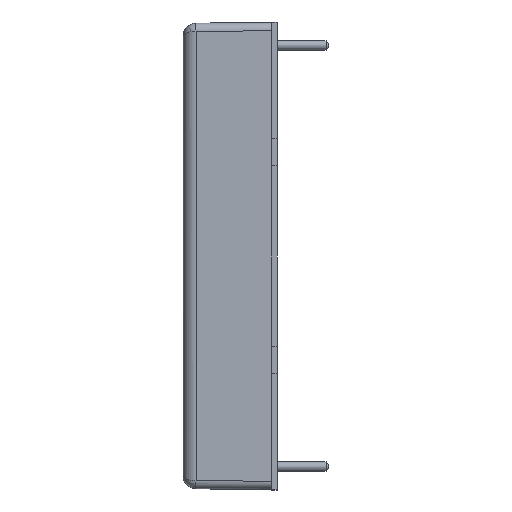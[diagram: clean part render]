
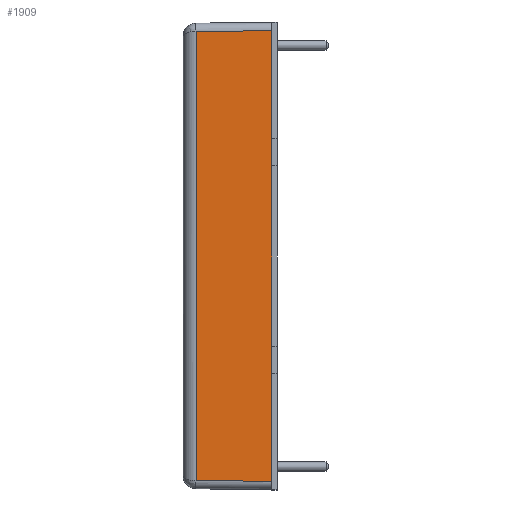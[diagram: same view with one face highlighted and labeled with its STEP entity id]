
A CAD part, left-side view. The second image highlights one B-rep face of the part: STEP entity #1909.
In plain terms, the highlighted planar face has unit normal (-1, 0.009, 0).
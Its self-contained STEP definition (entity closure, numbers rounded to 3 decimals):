
#30 = LINE ( 'NONE', #796, #1444 ) ;
#80 = DIRECTION ( 'NONE',  ( 0., 0., 1. ) ) ;
#105 = LINE ( 'NONE', #1110, #1992 ) ;
#124 = CARTESIAN_POINT ( 'NONE',  ( -25.35, 0.6, 25.35 ) ) ;
#125 = EDGE_CURVE ( 'NONE', #1768, #718, #105, .T. ) ;
#165 = CARTESIAN_POINT ( 'NONE',  ( -25.35, 0.6, 25.35 ) ) ;
#175 = DIRECTION ( 'NONE',  ( 0., 0., 1. ) ) ;
#181 = ORIENTED_EDGE ( 'NONE', *, *, #1809, .T. ) ;
#239 = CARTESIAN_POINT ( 'NONE',  ( -25.35, 0.6, -12.8 ) ) ;
#249 = VECTOR ( 'NONE', #696, 1000. ) ;
#259 = LINE ( 'NONE', #2258, #1240 ) ;
#329 = CARTESIAN_POINT ( 'NONE',  ( -25.346, 1.035, -24.446 ) ) ;
#420 = DIRECTION ( 'NONE',  ( 0., 0., -1. ) ) ;
#498 = CARTESIAN_POINT ( 'NONE',  ( -25.35, 0.6, 25.35 ) ) ;
#576 = EDGE_CURVE ( 'NONE', #2267, #1452, #1710, .T. ) ;
#630 = CARTESIAN_POINT ( 'NONE',  ( -25.35, 0.6, -9.8 ) ) ;
#661 = VECTOR ( 'NONE', #681, 1000. ) ;
#681 = DIRECTION ( 'NONE',  ( 0., 0., 1. ) ) ;
#688 = EDGE_CURVE ( 'NONE', #1559, #1306, #1160, .T. ) ;
#696 = DIRECTION ( 'NONE',  ( -0.009, -1., -0.009 ) ) ;
#718 = VERTEX_POINT ( 'NONE', #2286 ) ;
#719 = EDGE_CURVE ( 'NONE', #1572, #1768, #1867, .T. ) ;
#725 = LINE ( 'NONE', #1309, #1109 ) ;
#733 = LINE ( 'NONE', #329, #249 ) ;
#796 = CARTESIAN_POINT ( 'NONE',  ( -25.35, 0.6, 25.35 ) ) ;
#814 = ORIENTED_EDGE ( 'NONE', *, *, #1261, .T. ) ;
#815 = CARTESIAN_POINT ( 'NONE',  ( -25.35, 0.592, 24.45 ) ) ;
#845 = DIRECTION ( 'NONE',  ( -0.009, -1., 0. ) ) ;
#908 = DIRECTION ( 'NONE',  ( 0., 0., 1. ) ) ;
#1075 = EDGE_LOOP ( 'NONE', ( #2338, #1439, #1936, #1286, #1843, #181, #814, #1943 ) ) ;
#1109 = VECTOR ( 'NONE', #175, 1000. ) ;
#1110 = CARTESIAN_POINT ( 'NONE',  ( -25.278, 8.812, 25.35 ) ) ;
#1160 = LINE ( 'NONE', #498, #661 ) ;
#1196 = EDGE_CURVE ( 'NONE', #1452, #1559, #259, .T. ) ;
#1240 = VECTOR ( 'NONE', #80, 1000. ) ;
#1261 = EDGE_CURVE ( 'NONE', #1907, #1572, #30, .T. ) ;
#1286 = ORIENTED_EDGE ( 'NONE', *, *, #1196, .T. ) ;
#1306 = VERTEX_POINT ( 'NONE', #1363 ) ;
#1309 = CARTESIAN_POINT ( 'NONE',  ( -25.35, 0.6, 25.35 ) ) ;
#1318 = DIRECTION ( 'NONE',  ( 0., 0., 1. ) ) ;
#1353 = CARTESIAN_POINT ( 'NONE',  ( -25.278, 8.812, 24.378 ) ) ;
#1363 = CARTESIAN_POINT ( 'NONE',  ( -25.35, 0.6, 9.8 ) ) ;
#1439 = ORIENTED_EDGE ( 'NONE', *, *, #2226, .T. ) ;
#1444 = VECTOR ( 'NONE', #1318, 1000. ) ;
#1452 = VERTEX_POINT ( 'NONE', #239 ) ;
#1559 = VERTEX_POINT ( 'NONE', #630 ) ;
#1572 = VERTEX_POINT ( 'NONE', #1866 ) ;
#1645 = CARTESIAN_POINT ( 'NONE',  ( -25.35, 0.6, -24.45 ) ) ;
#1710 = LINE ( 'NONE', #165, #2071 ) ;
#1743 = DIRECTION ( 'NONE',  ( 0.009, 1., -0.009 ) ) ;
#1768 = VERTEX_POINT ( 'NONE', #1353 ) ;
#1809 = EDGE_CURVE ( 'NONE', #1306, #1907, #725, .T. ) ;
#1843 = ORIENTED_EDGE ( 'NONE', *, *, #688, .T. ) ;
#1866 = CARTESIAN_POINT ( 'NONE',  ( -25.35, 0.6, 24.45 ) ) ;
#1867 = LINE ( 'NONE', #815, #2010 ) ;
#1895 = AXIS2_PLACEMENT_3D ( 'NONE', #124, #2128, #845 ) ;
#1907 = VERTEX_POINT ( 'NONE', #2166 ) ;
#1909 = ADVANCED_FACE ( 'NONE', ( #2275 ), #2307, .T. ) ;
#1936 = ORIENTED_EDGE ( 'NONE', *, *, #576, .T. ) ;
#1943 = ORIENTED_EDGE ( 'NONE', *, *, #719, .T. ) ;
#1992 = VECTOR ( 'NONE', #420, 1000. ) ;
#2010 = VECTOR ( 'NONE', #1743, 1000. ) ;
#2071 = VECTOR ( 'NONE', #908, 1000. ) ;
#2128 = DIRECTION ( 'NONE',  ( -1., 0.009, 0. ) ) ;
#2166 = CARTESIAN_POINT ( 'NONE',  ( -25.35, 0.6, 12.8 ) ) ;
#2226 = EDGE_CURVE ( 'NONE', #718, #2267, #733, .T. ) ;
#2258 = CARTESIAN_POINT ( 'NONE',  ( -25.35, 0.6, 25.35 ) ) ;
#2267 = VERTEX_POINT ( 'NONE', #1645 ) ;
#2275 = FACE_OUTER_BOUND ( 'NONE', #1075, .T. ) ;
#2286 = CARTESIAN_POINT ( 'NONE',  ( -25.278, 8.812, -24.378 ) ) ;
#2307 = PLANE ( 'NONE',  #1895 ) ;
#2338 = ORIENTED_EDGE ( 'NONE', *, *, #125, .T. ) ;
